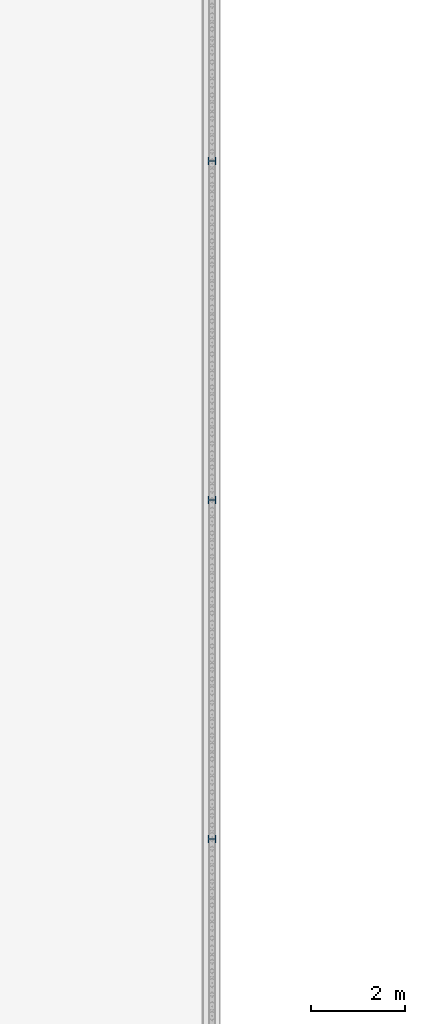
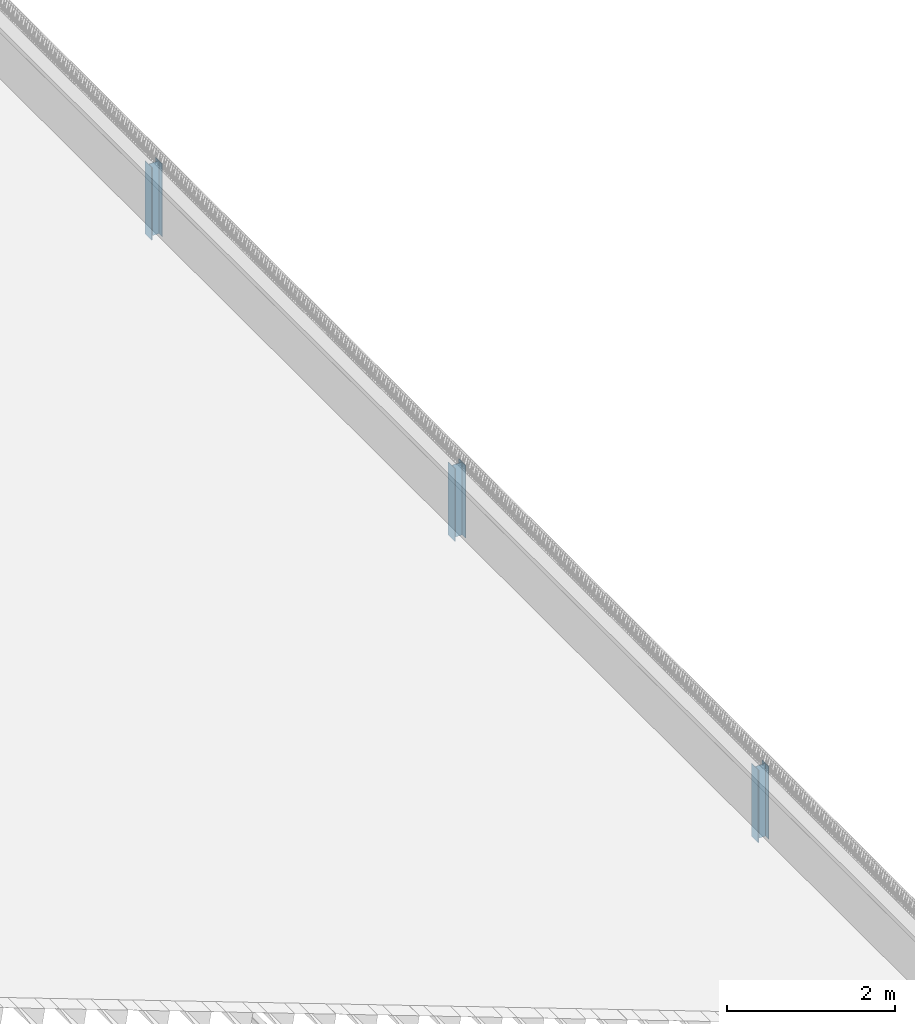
# One storey, part 16 of 81: 3 columns.
"""IFC2X3 building model written with IfcOpenShell, lengths in millimetres."""

from ifc_helpers import new_model, entity, si_unit, converted_unit, derived_unit, money_unit, direction, frame, origin_with_axes, place, context, subcontext, project, spatial, faceted_brep, material, type_object, element, save


model = new_model("IFC2X3")

# Units and contexts
model_context = context("Model", 3, precision=0.01, world=origin_with_axes(), true_north=direction((0.0, 1.0)))
body_context = subcontext(model_context, "Body", "Model", "MODEL_VIEW")
ifc_project = project(units=[si_unit("LENGTHUNIT", "METRE", prefix="MILLI"), si_unit("AREAUNIT", "SQUARE_METRE"), si_unit("VOLUMEUNIT", "CUBIC_METRE"), converted_unit("PLANEANGLEUNIT", "DEGREE", entity("IfcPlaneAngleMeasure", 0.0174532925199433), si_unit("PLANEANGLEUNIT", "RADIAN"), dimensions=[0, 0, 0, 0, 0, 0, 0]), money_unit("EUR"), converted_unit("TIMEUNIT", "Year", entity("IfcTimeMeasure", 31557600.0), si_unit("TIMEUNIT", "SECOND"), dimensions=[0, 0, 1, 0, 0, 0, 0]), si_unit("MASSUNIT", "GRAM", prefix="KILO"), si_unit("THERMODYNAMICTEMPERATUREUNIT", "DEGREE_CELSIUS"), si_unit("LUMINOUSINTENSITYUNIT", "LUMEN"), si_unit("ENERGYUNIT", "JOULE", prefix="MEGA"), derived_unit("THERMALCONDUCTANCEUNIT", [(si_unit("POWERUNIT", "WATT"), 1), (si_unit("LENGTHUNIT", "METRE"), -1), (si_unit("THERMODYNAMICTEMPERATUREUNIT", "KELVIN"), -1)]), derived_unit("SPECIFICHEATCAPACITYUNIT", [(si_unit("ENERGYUNIT", "JOULE"), 1), (si_unit("MASSUNIT", "GRAM", prefix="KILO"), -1), (si_unit("THERMODYNAMICTEMPERATUREUNIT", "KELVIN"), -1)]), derived_unit("MASSDENSITYUNIT", [(si_unit("MASSUNIT", "GRAM", prefix="KILO"), 1), (si_unit("VOLUMEUNIT", "CUBIC_METRE"), -1)])], contexts=[model_context])

# Site, building, storey
site_placement = place(None, origin_with_axes())
site = spatial("IfcSite", under=ifc_project, at=site_placement, Name="Site", CompositionType="ELEMENT")
building_placement = place(site_placement, origin_with_axes())
building = spatial("IfcBuilding", under=site, at=building_placement, Name="Naam gebouw", CompositionType="ELEMENT")
storey_placement = place(building_placement, frame((0.0, 0.0, 15320.0), z_axis=(0.0, 0.0, 1.0), x_axis=(1.0, 0.0, 0.0)))
storey = spatial("IfcBuildingStorey", under=building, at=storey_placement, Name="01 dak", CompositionType="ELEMENT", Elevation=15320.0)

# Columns
ifc_material = material(Name="Metaal - Staal C")
column_type = type_object("IfcColumnType", Name="HEA160 160 x 152", PredefinedType="COLUMN")
for number, where, z_axis, x_axis, name in (
    (1, (126824.0, 105200.0, -400.0393597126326), (0.0, 0.0, 1.0), (0.0, -1.0, 0.0), "HEA160"),
    (2, (126824.0, 90800.00000000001, -400.0393597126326), (0.0, 0.0, 1.0), (0.0, -1.0, 0.0), "HEA160"),
    (3, (126824.0, 98000.0, -400.0393597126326), (0.0, 0.0, 1.0), (0.0, -1.0, 0.0), "HEA160"),
):
    element("IfcColumn", number, at=place(storey_placement, frame(where, z_axis=z_axis, x_axis=x_axis)), inside=storey, type_object=column_type, material=ifc_material, Name=name, ObjectType="COLUMN", context=body_context, shape_type="Brep", body=[
        faceted_brep([(-79.9999999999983, 75.9999999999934, 1055.0), (-79.9999999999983, 75.9999999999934, 0.0), (-79.9999999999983, 66.99999999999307, 0.0), (-79.9999999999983, 66.99999999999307, 1055.0), (79.9999999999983, 75.9999999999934, 1055.0), (79.9999999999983, 75.9999999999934, 0.0), (79.9999999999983, 66.99999999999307, 0.0), (3.000000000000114, 66.99999999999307, 0.0), (3.000000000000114, -66.99999999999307, 0.0), (79.9999999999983, -66.99999999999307, 0.0), (79.9999999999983, -75.9999999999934, 0.0), (-79.9999999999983, -75.9999999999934, 0.0), (-79.9999999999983, -66.99999999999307, 0.0), (-3.000000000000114, -66.99999999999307, 0.0), (-3.000000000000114, 66.99999999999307, 0.0), (-3.000000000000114, 66.99999999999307, 1055.0), (-3.000000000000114, -66.99999999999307, 1055.0), (-79.9999999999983, -66.99999999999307, 1055.0), (-79.9999999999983, -75.9999999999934, 1055.0), (79.9999999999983, -75.9999999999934, 1055.0), (79.9999999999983, -66.99999999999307, 1055.0), (3.000000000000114, -66.99999999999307, 1055.0), (3.000000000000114, 66.99999999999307, 1055.0), (79.9999999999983, 66.99999999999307, 1055.0)], [[[0, 1, 2, 3]], [[4, 5, 1, 0]], [[2, 1, 5, 6, 7, 8, 9, 10, 11, 12, 13, 14]], [[3, 2, 14, 15]], [[4, 0, 3, 15, 16, 17, 18, 19, 20, 21, 22, 23]], [[23, 6, 5, 4]], [[22, 7, 6, 23]], [[21, 8, 7, 22]], [[20, 9, 8, 21]], [[19, 10, 9, 20]], [[18, 11, 10, 19]], [[17, 12, 11, 18]], [[16, 13, 12, 17]], [[15, 14, 13, 16]]]),
    ])

save(model, "model.ifc")
